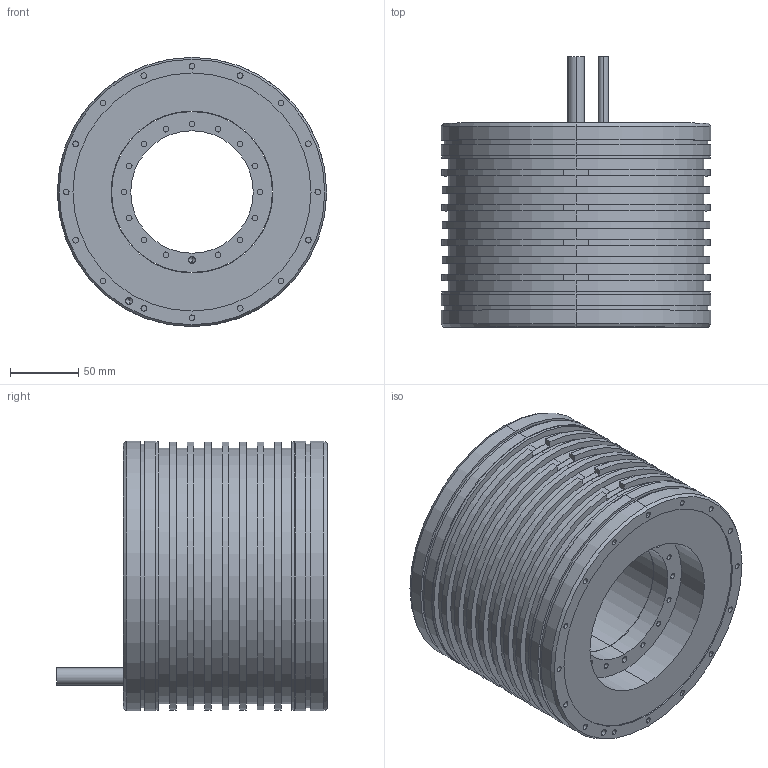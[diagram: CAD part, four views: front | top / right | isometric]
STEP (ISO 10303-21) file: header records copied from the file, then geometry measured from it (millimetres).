
FILE_DESCRIPTION (( 'STEP AP203' ), '1' );
FILE_NAME ('TM-2-2A.STEP', '2020-10-20T05:40:05', ( '' ), ( '' ), 'SwSTEP 2.0', 'SolidWorks 2015', '' );
FILE_SCHEMA (( 'CONFIG_CONTROL_DESIGN' ));
Length unit declared in the file: millimetre
Products named in the file (3): TM-2-2X_stator_TM-2-2A_stator; TM-2-2X_rotor_TM-2-2A_rotor; TM-2-2A
Assembly tree (2 placements, depth 2):
  TM-2-2A
    TM-2-2X_stator_TM-2-2A_stator
    TM-2-2X_rotor_TM-2-2A_rotor
Bounding box: 198 x 199 x 198 mm (x, y, z)
Volume: 3170732.7 mm3; surface area: 325781.7 mm2
Topology: 2 solids, 2 shells, 322 faces, 684 edges, 436 vertices
Faces by surface type: cylinder 193, plane 113, cone 16
Entity records: 9051 total; most frequent: DIRECTION 1720, CARTESIAN_POINT 1439, ORIENTED_EDGE 1352, AXIS2_PLACEMENT_3D 717, EDGE_CURVE 676, VERTEX_POINT 436, EDGE_LOOP 404, CIRCLE 390
